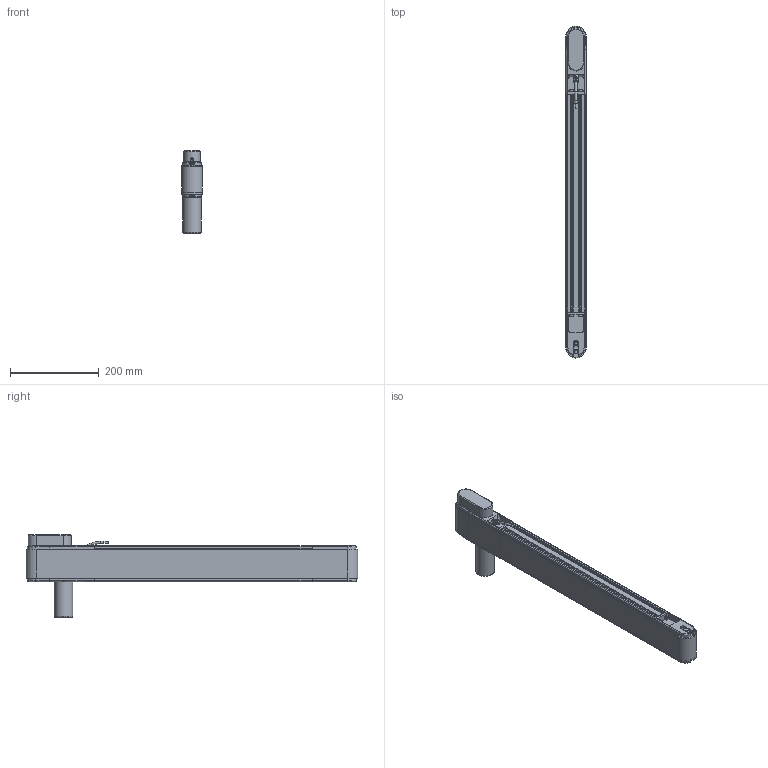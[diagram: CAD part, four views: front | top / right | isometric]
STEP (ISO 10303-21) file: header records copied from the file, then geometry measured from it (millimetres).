
FILE_DESCRIPTION(/* description */ (''),/* implementation_level */ '2;1');
FILE_NAME(/* name */ 'G:\DATEN\CAD\Förderband\Marketing\3D-Modelle (Standard)\FR-40-80-Q\FR-40-80-Q-700-K (Motorendrohr 80 mm).stp',/* time_stamp */ '2019-05-08T14:17:58+02:00',/* author */ ('melanie.ochs'),/* organization */ (''),/* preprocessor_version */ 'ST-DEVELOPER v17',/* originating_system */ 'Autodesk Inventor 2019',/* authorisation */ '');
FILE_SCHEMA (('CONFIG_CONTROL_DESIGN'));
Length unit declared in the file: centimetre
Products named in the file (1): FR-40-80-Q-700-K (Motorendrohr 80 mm)
Bounding box: 46.6 x 746.6 x 185 mm (x, y, z)
Volume: 1429474.7 mm3; surface area: 734956.9 mm2
Topology: 31 solids, 32 shells, 877 faces, 2386 edges, 1622 vertices
Faces by surface type: plane 440, cylinder 275, cone 70, bspline 61, torus 31
Full cylindrical faces by diameter (mm): 2 x2, 4 x6, 4.3 x4, 4.65 x1, 4.917 x2, 5 x11, 5.5 x8, 6 x2, 6.5 x1, 6.773 x1, 6.917 x2, 8 x7, 8.3 x12, 8.5 x8, 8.773 x1, 10 x1, 11 x1, 12 x3, 25 x2, 28 x4, 42 x2, 44 x2
Entity records: 29497 total; most frequent: CARTESIAN_POINT 6205, ORIENTED_EDGE 4736, DIRECTION 4597, EDGE_CURVE 2368, AXIS2_PLACEMENT_3D 1666, VERTEX_POINT 1622, LINE 1265, VECTOR 1265
